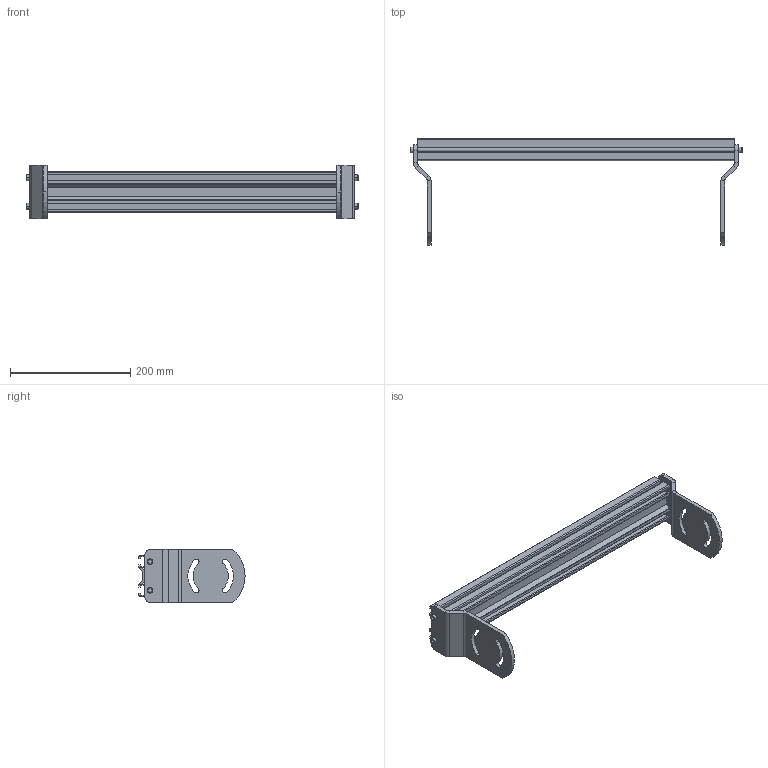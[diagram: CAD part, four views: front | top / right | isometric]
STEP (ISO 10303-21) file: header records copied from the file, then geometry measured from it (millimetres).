
FILE_DESCRIPTION((''),'2;1');
FILE_NAME('39MCM18_ASM','2023-03-01T',('jenni.wallner'),(''),'PRO/ENGINEER BY PARAMETRIC TECHNOLOGY CORPORATION, 2012420','PRO/ENGINEER BY PARAMETRIC TECHNOLOGY CORPORATION, 2012420','');
FILE_SCHEMA(('CONFIG_CONTROL_DESIGN'));
Length unit declared in the file: inch
Products named in the file (5): 710210_02079; 300825M; 708180P; 39MCM18-2_ASM_ASM; 39MCM18_ASM
Assembly tree (8 placements, depth 3):
  39MCM18_ASM
    39MCM18-2_ASM_ASM
      710210_02079
      300825M  x2
      708180P  x4
Bounding box: 552.77 x 176.65 x 88.93 mm (x, y, z)
Volume: 552745.6 mm3; surface area: 380840.1 mm2
Topology: 7 solids, 7 shells, 256 faces, 702 edges, 468 vertices
Faces by surface type: plane 144, cylinder 92, cone 20
Entity records: 5052 total; most frequent: CARTESIAN_POINT 890, DIRECTION 863, ORIENTED_EDGE 836, EDGE_CURVE 418, VECTOR 301, LINE 301, AXIS2_PLACEMENT_3D 281, VERTEX_POINT 276
